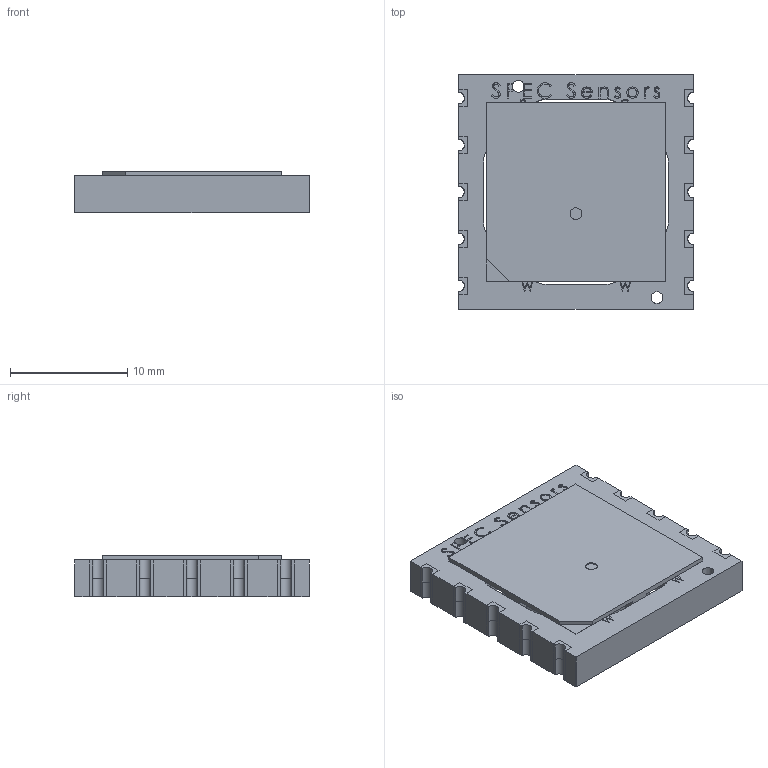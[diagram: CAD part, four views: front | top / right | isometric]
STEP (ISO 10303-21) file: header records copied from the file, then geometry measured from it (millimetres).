
FILE_DESCRIPTION (( 'STEP AP214' ), '1' );
FILE_NAME ('110-804 STEP.STEP', '2023-06-20T23:07:58', ( '' ), ( '' ), 'SwSTEP 2.0', 'SolidWorks 2017', '' );
FILE_SCHEMA (( 'AUTOMOTIVE_DESIGN' ));
Length unit declared in the file: millimetre
Products named in the file (4): Zebra Barcode; 981-013; 110-804 STEP; 100-801 STEP
Assembly tree (3 placements, depth 2):
  110-804 STEP
    100-801 STEP
    Zebra Barcode
    981-013
Bounding box: 20.01 x 20 x 3.51 mm (x, y, z)
Volume: 1072.7 mm3; surface area: 2142.7 mm2
Topology: 32 solids, 32 shells, 579 faces, 1546 edges, 1036 vertices
Faces by surface type: plane 360, bspline 123, cylinder 96
Full cylindrical faces by diameter (mm): 0.75 x24, 1 x11, 12 x1
Entity records: 27425 total; most frequent: CARTESIAN_POINT 9278, ORIENTED_EDGE 2988, DIRECTION 2364, EDGE_CURVE 1494, VECTOR 1056, LINE 1056, VERTEX_POINT 1020, EDGE_LOOP 696
